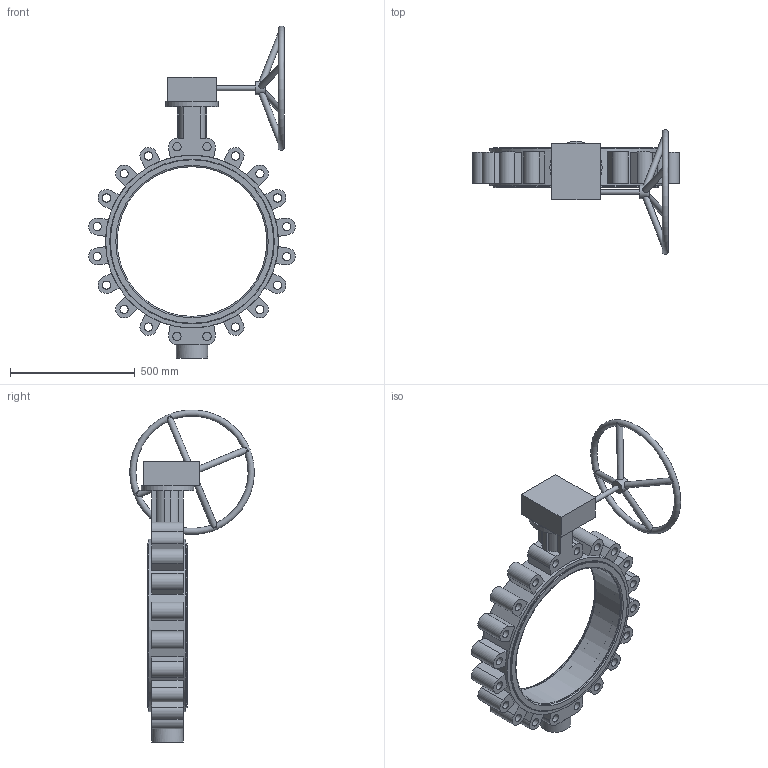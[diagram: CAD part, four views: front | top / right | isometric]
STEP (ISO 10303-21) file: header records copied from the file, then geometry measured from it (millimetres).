
FILE_DESCRIPTION (( 'STEP AP203' ), '1' );
FILE_NAME ('2502 LT型中线衬胶带销 手动头蝶阀 DN600 PN16 CD0309128.STEP', '2026-04-01T06:13:24', ( '' ), ( '' ), 'SwSTEP 2.0', 'SolidWorks 2018', '' );
FILE_SCHEMA (( 'CONFIG_CONTROL_DESIGN' ));
Length unit declared in the file: millimetre
Products named in the file (4): G250L 潠趙; GALA-D600-01LC16-00; GALA-D600-04AC-00; 2502 LT型中线衬胶带销 手动头蝶阀 DN600 PN16 CD0309128
Assembly tree (3 placements, depth 2):
  2502 LT型中线衬胶带销 手动头蝶阀 DN600 PN16 CD0309128
    GALA-D600-04AC-00
    GALA-D600-01LC16-00
    G250L 潠趙
Bounding box: 828.1 x 499.95 x 1331.51 mm (x, y, z)
Volume: 33239565.5 mm3; surface area: 2871692 mm2
Topology: 3 solids, 4 shells, 211 faces, 535 edges, 356 vertices
Faces by surface type: plane 113, cylinder 77, cone 11, torus 10
Full cylindrical faces by diameter (mm): 20 x1, 22 x4, 25 x4, 33 x24, 35.714 x1, 54.057 x1, 125 x1, 210 x1, 600.416 x1, 605 x1, 608.062 x1, 660 x3, 693 x1
Entity records: 8453 total; most frequent: CARTESIAN_POINT 3239, DIRECTION 1022, ORIENTED_EDGE 866, EDGE_CURVE 433, AXIS2_PLACEMENT_3D 407, EDGE_LOOP 350, VERTEX_POINT 321, FACE_OUTER_BOUND 260
